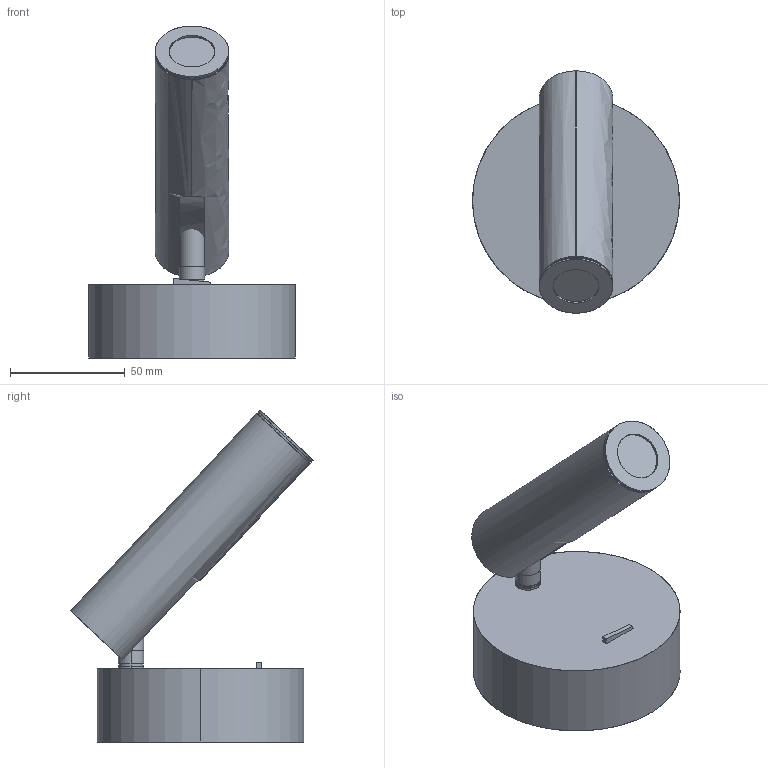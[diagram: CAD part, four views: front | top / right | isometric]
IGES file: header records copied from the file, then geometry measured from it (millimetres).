
Start section: SolidWorks IGES file using analytic representation for surfaces
Global section: file name: C:\Users\danielet\Desktop\ISMAIL\ATRIA-A3925-3D\ATRIA-A3925-3D.IGS; native system: SolidWorks 2018; preprocessor: SolidWorks 2018; author: danielet; date: 230310.110444; units: millimetre
Bounding box: 90 x 105.59 x 144.47 mm (x, y, z)
Surface area: 37549.9 mm2 (no closed solid volume)
Topology: 0 solids, 0 shells, 48 faces, 1030 edges, 1030 vertices
Faces by surface type: bspline 29, revolution 19
